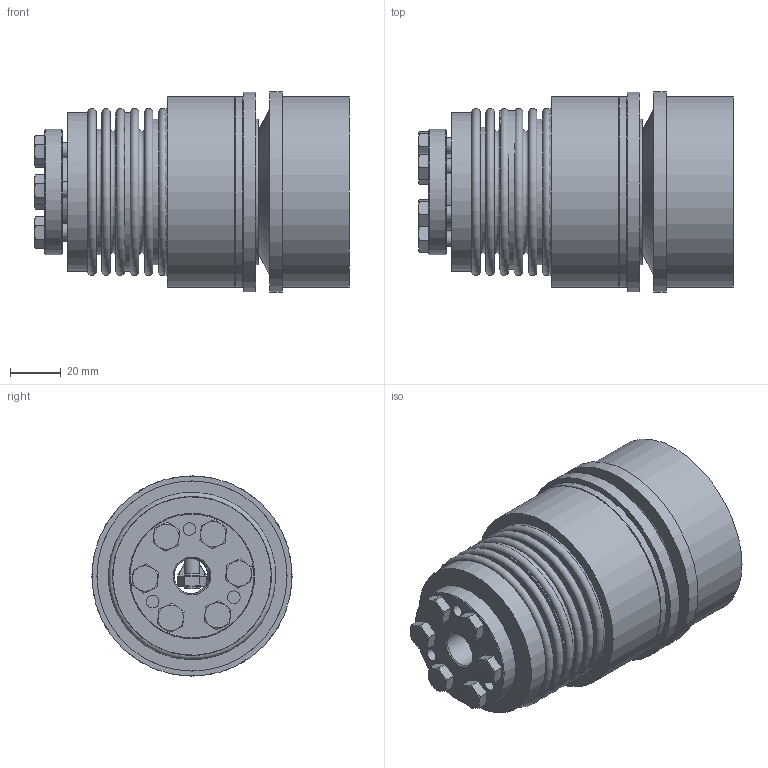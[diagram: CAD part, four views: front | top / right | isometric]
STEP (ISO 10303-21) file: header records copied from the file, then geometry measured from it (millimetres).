
FILE_DESCRIPTION( ( 'Unknown' ), '1' );
FILE_NAME( 'C:/Dokumente und Einstellungen/SKarpstein/Desktop/Korrigierte 3D Modelle/KBK-B-II/KBK-BII-60-110.stp', 'Unknown', ( 'Unknown' ), ( 'Unknown' ), 'XStep 1.0', 'Unknown', ' ' );
FILE_SCHEMA( ( 'automotive_design' ) );
Length unit declared in the file: millimetre
Products named in the file (12): Assem1; Assem2; BA60_Standard_2; Hex Screw GradeC_DIN_ISO 4018 - M6 x 20-NN_2; KB60_Standard_0; Stellring 60; Druckring 60; KBK L-I-60 Grundkörper; Konusbuchse 60; din_en_24017_m6x20; BL60_Standard_0; Flansch BI60
Bounding box: 124.2 x 79 x 79 mm (x, y, z)
Volume: 501603.7 mm3; surface area: 276619.9 mm2
Topology: 38 solids, 38 shells, 785 faces, 1625 edges, 1032 vertices
Faces by surface type: plane 344, cone 208, cylinder 171, torus 62
Full cylindrical faces by diameter (mm): 3.242 x6, 4 x6, 4.917 x18, 5 x9, 6 x38, 6.6 x30, 8.8 x7, 14 x3, 15 x4, 30.2 x5, 33 x2, 35 x4, 42 x2, 46 x7, 46.5 x2, 47 x2, 49.5 x5, 56.3 x4, 57.3 x4, 61.3 x2, 62.5 x3, 66 x2, 75 x4, 79 x2
Entity records: 6435 total; most frequent: CARTESIAN_POINT 1277, DIRECTION 1024, ORIENTED_EDGE 650, AXIS2_PLACEMENT_3D 488, EDGE_LOOP 456, EDGE_CURVE 325, FACE_OUTER_BOUND 320, VERTEX_POINT 277
